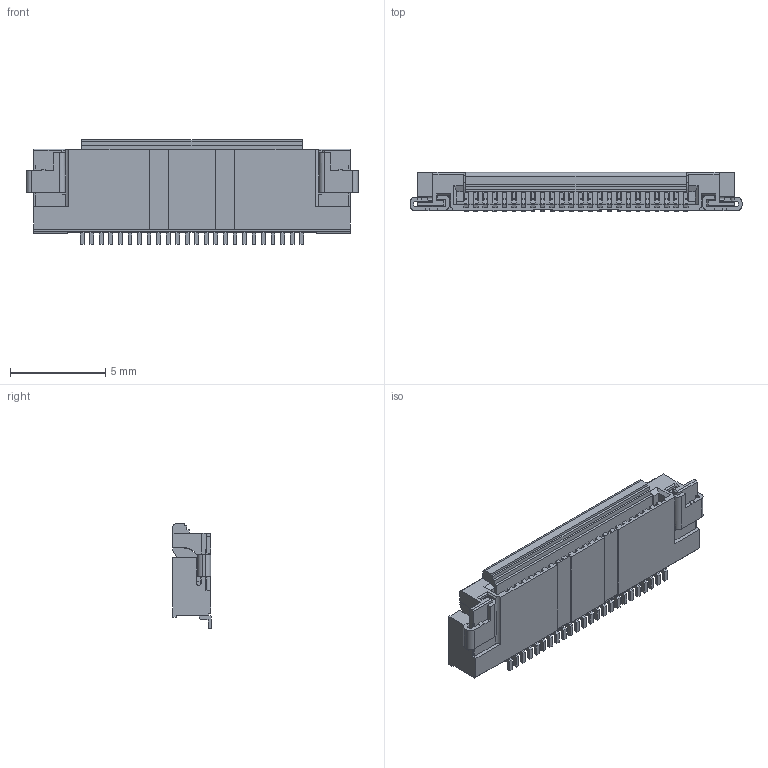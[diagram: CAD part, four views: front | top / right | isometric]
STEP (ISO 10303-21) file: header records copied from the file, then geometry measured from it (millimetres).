
FILE_DESCRIPTION((''),'2;1');
FILE_NAME('528922495','2013-08-21T',('me'),(''),'PRO/ENGINEER BY PARAMETRIC TECHNOLOGY CORPORATION, 2011490','PRO/ENGINEER BY PARAMETRIC TECHNOLOGY CORPORATION, 2011490','');
FILE_SCHEMA(('CONFIG_CONTROL_DESIGN'));
Length unit declared in the file: millimetre
Products named in the file (1): 528922495
Bounding box: 17.4 x 2.04 x 5.5 mm (x, y, z)
Volume: 105.9 mm3; surface area: 659.8 mm2
Topology: 1 solids, 1 shells, 1084 faces, 3573 edges, 2315 vertices
Faces by surface type: plane 925, cylinder 159
Entity records: 38759 total; most frequent: ORIENTED_EDGE 7146, CARTESIAN_POINT 7017, DIRECTION 6054, EDGE_CURVE 3573, VECTOR 3232, LINE 3232, VERTEX_POINT 2315, AXIS2_PLACEMENT_3D 1411
